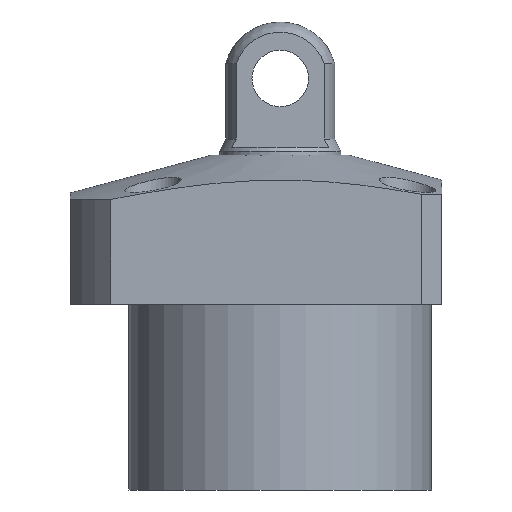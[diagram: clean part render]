
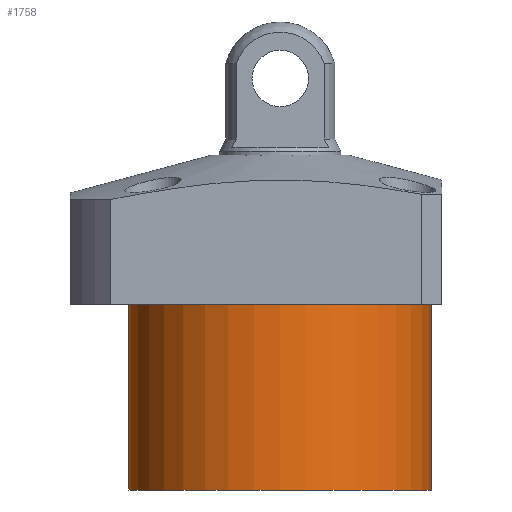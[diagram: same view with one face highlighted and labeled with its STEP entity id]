
A CAD part, front view. The second image highlights one B-rep face of the part: STEP entity #1758.
In plain terms, the highlighted cylindrical face has radius 37.5 mm (diameter 75 mm), a partial arc.
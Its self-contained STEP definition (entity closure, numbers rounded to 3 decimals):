
#38 = EDGE_CURVE ( 'NONE', #1649, #1565, #688, .T. ) ;
#179 = CARTESIAN_POINT ( 'NONE',  ( 37.5, 0., -64.5 ) ) ;
#232 = CARTESIAN_POINT ( 'NONE',  ( 0., 0., -64.5 ) ) ;
#255 = CIRCLE ( 'NONE', #898, 37.5 ) ;
#274 = ORIENTED_EDGE ( 'NONE', *, *, #393, .F. ) ;
#285 = AXIS2_PLACEMENT_3D ( 'NONE', #1453, #1846, #716 ) ;
#293 = DIRECTION ( 'NONE',  ( 0., 0., 1. ) ) ;
#370 = DIRECTION ( 'NONE',  ( 0., 0., 1. ) ) ;
#393 = EDGE_CURVE ( 'NONE', #730, #762, #490, .T. ) ;
#458 = VECTOR ( 'NONE', #370, 1000. ) ;
#490 = LINE ( 'NONE', #1968, #1432 ) ;
#509 = ORIENTED_EDGE ( 'NONE', *, *, #576, .T. ) ;
#576 = EDGE_CURVE ( 'NONE', #1565, #762, #628, .T. ) ;
#626 = ORIENTED_EDGE ( 'NONE', *, *, #714, .F. ) ;
#628 = CIRCLE ( 'NONE', #1069, 37.5 ) ;
#648 = CARTESIAN_POINT ( 'NONE',  ( -37.5, 0., -64.5 ) ) ;
#688 = LINE ( 'NONE', #179, #458 ) ;
#714 = EDGE_CURVE ( 'NONE', #1649, #730, #255, .T. ) ;
#716 = DIRECTION ( 'NONE',  ( 1., 0., 0. ) ) ;
#730 = VERTEX_POINT ( 'NONE', #648 ) ;
#762 = VERTEX_POINT ( 'NONE', #1759 ) ;
#898 = AXIS2_PLACEMENT_3D ( 'NONE', #232, #1341, #1027 ) ;
#994 = ORIENTED_EDGE ( 'NONE', *, *, #38, .T. ) ;
#1027 = DIRECTION ( 'NONE',  ( -1., 0., 0. ) ) ;
#1069 = AXIS2_PLACEMENT_3D ( 'NONE', #1445, #2182, #1262 ) ;
#1262 = DIRECTION ( 'NONE',  ( 1., 0., 0. ) ) ;
#1341 = DIRECTION ( 'NONE',  ( 0., 0., -1. ) ) ;
#1432 = VECTOR ( 'NONE', #293, 1000. ) ;
#1445 = CARTESIAN_POINT ( 'NONE',  ( 0., 0., -18.5 ) ) ;
#1453 = CARTESIAN_POINT ( 'NONE',  ( 0., 0., -64.5 ) ) ;
#1472 = CARTESIAN_POINT ( 'NONE',  ( 37.5, 0., -64.5 ) ) ;
#1565 = VERTEX_POINT ( 'NONE', #1603 ) ;
#1603 = CARTESIAN_POINT ( 'NONE',  ( 37.5, 0., -18.5 ) ) ;
#1649 = VERTEX_POINT ( 'NONE', #1472 ) ;
#1758 = ADVANCED_FACE ( 'NONE', ( #2219 ), #1975, .T. ) ;
#1759 = CARTESIAN_POINT ( 'NONE',  ( -37.5, 0., -18.5 ) ) ;
#1846 = DIRECTION ( 'NONE',  ( 0., 0., 1. ) ) ;
#1968 = CARTESIAN_POINT ( 'NONE',  ( -37.5, 0., -64.5 ) ) ;
#1975 = CYLINDRICAL_SURFACE ( 'NONE', #285, 37.5 ) ;
#2044 = EDGE_LOOP ( 'NONE', ( #274, #626, #994, #509 ) ) ;
#2182 = DIRECTION ( 'NONE',  ( 0., 0., -1. ) ) ;
#2219 = FACE_OUTER_BOUND ( 'NONE', #2044, .T. ) ;
